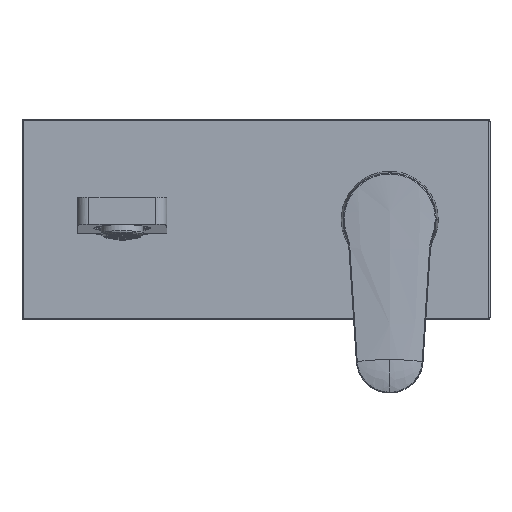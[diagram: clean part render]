
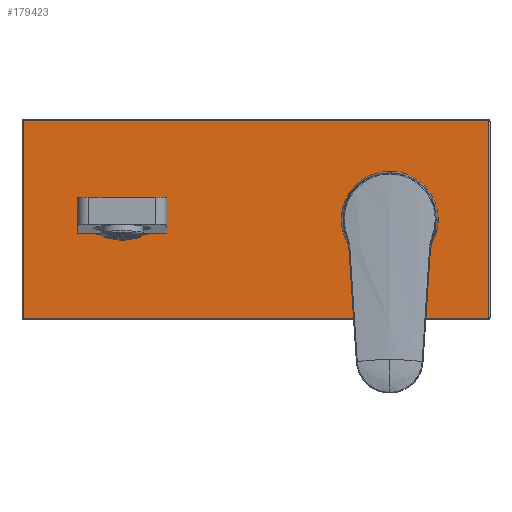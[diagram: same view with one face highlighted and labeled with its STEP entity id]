
A CAD part, top view. The second image highlights one B-rep face of the part: STEP entity #179423.
In plain terms, the highlighted planar face has unit normal (0, 0, 1).
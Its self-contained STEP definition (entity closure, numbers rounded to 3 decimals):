
#67364=CARTESIAN_POINT('',(98.5,-9.5,87.05));
#67365=DIRECTION('',(0.,0.,1.));
#67366=DIRECTION('',(0.,-1.,0.));
#67367=AXIS2_PLACEMENT_3D('',#67364,#67365,#67366);
#67369=DIRECTION('',(1.,0.,0.));
#67370=VECTOR('',#67369,208.);
#67371=CARTESIAN_POINT('',(-109.5,-10.,87.05));
#67372=LINE('',#67371,#67370);
#67373=CARTESIAN_POINT('',(-109.5,-9.5,87.05));
#67374=DIRECTION('',(0.,0.,1.));
#67375=DIRECTION('',(-1.,0.,0.));
#67376=AXIS2_PLACEMENT_3D('',#67373,#67374,#67375);
#67378=DIRECTION('',(0.,-1.,0.));
#67379=VECTOR('',#67378,88.);
#67380=CARTESIAN_POINT('',(-110.,78.5,87.05));
#67381=LINE('',#67380,#67379);
#67382=CARTESIAN_POINT('',(-109.5,78.5,87.05));
#67383=DIRECTION('',(0.,0.,1.));
#67384=DIRECTION('',(0.,1.,0.));
#67385=AXIS2_PLACEMENT_3D('',#67382,#67383,#67384);
#67387=DIRECTION('',(-1.,0.,0.));
#67388=VECTOR('',#67387,208.);
#67389=CARTESIAN_POINT('',(98.5,79.,87.05));
#67390=LINE('',#67389,#67388);
#67391=CARTESIAN_POINT('',(98.5,78.5,87.05));
#67392=DIRECTION('',(0.,0.,1.));
#67393=DIRECTION('',(1.,0.,0.));
#67394=AXIS2_PLACEMENT_3D('',#67391,#67392,#67393);
#67396=DIRECTION('',(0.,1.,0.));
#67397=VECTOR('',#67396,88.);
#67398=CARTESIAN_POINT('',(99.,-9.5,87.05));
#67399=LINE('',#67398,#67397);
#67400=CARTESIAN_POINT('',(54.5,34.5,87.05));
#67401=DIRECTION('',(0.,0.,-1.));
#67402=DIRECTION('',(-1.,0.,0.));
#67403=AXIS2_PLACEMENT_3D('',#67400,#67401,#67402);
#67405=CARTESIAN_POINT('',(54.5,34.5,87.05));
#67406=DIRECTION('',(0.,0.,-1.));
#67407=DIRECTION('',(1.,0.,0.));
#67408=AXIS2_PLACEMENT_3D('',#67405,#67406,#67407);
#67410=DIRECTION('',(1.,0.,0.));
#67411=VECTOR('',#67410,6.655);
#67412=CARTESIAN_POINT('',(-85.,28.,87.05));
#67413=LINE('',#67412,#67411);
#67414=CARTESIAN_POINT('',(-78.345,8.,87.05));
#67415=DIRECTION('',(0.,0.,-1.));
#67416=DIRECTION('',(0.,1.,0.));
#67417=AXIS2_PLACEMENT_3D('',#67414,#67415,#67416);
#67419=CARTESIAN_POINT('',(-65.5,34.,87.05));
#67420=DIRECTION('',(0.,0.,1.));
#67421=DIRECTION('',(-0.443,-0.897,0.));
#67422=AXIS2_PLACEMENT_3D('',#67419,#67420,#67421);
#67424=CARTESIAN_POINT('',(-52.655,8.,87.05));
#67425=DIRECTION('',(0.,0.,1.));
#67426=DIRECTION('',(0.,1.,0.));
#67427=AXIS2_PLACEMENT_3D('',#67424,#67425,#67426);
#67429=DIRECTION('',(1.,0.,0.));
#67430=VECTOR('',#67429,6.655);
#67431=CARTESIAN_POINT('',(-52.655,28.,87.05));
#67432=LINE('',#67431,#67430);
#67433=CARTESIAN_POINT('',(-46.,29.,87.05));
#67434=DIRECTION('',(0.,0.,-1.));
#67435=DIRECTION('',(0.5,-0.866,0.));
#67436=AXIS2_PLACEMENT_3D('',#67433,#67434,#67435);
#67438=DIRECTION('',(0.,1.,0.));
#67439=VECTOR('',#67438,15.866);
#67440=CARTESIAN_POINT('',(-45.5,28.134,87.05));
#67441=LINE('',#67440,#67439);
#67442=DIRECTION('',(1.,0.,0.));
#67443=VECTOR('',#67442,40.);
#67444=CARTESIAN_POINT('',(-85.5,44.,87.05));
#67445=LINE('',#67444,#67443);
#67446=DIRECTION('',(0.,1.,0.));
#67447=VECTOR('',#67446,15.866);
#67448=CARTESIAN_POINT('',(-85.5,28.134,87.05));
#67449=LINE('',#67448,#67447);
#67450=CARTESIAN_POINT('',(-85.,29.,87.05));
#67451=DIRECTION('',(0.,0.,-1.));
#67452=DIRECTION('',(0.,-1.,0.));
#67453=AXIS2_PLACEMENT_3D('',#67450,#67451,#67452);
#106211=CARTESIAN_POINT('',(98.5,-10.,87.05));
#106212=CARTESIAN_POINT('',(99.,-9.5,87.05));
#106213=VERTEX_POINT('',#106211);
#106214=VERTEX_POINT('',#106212);
#106219=CARTESIAN_POINT('',(99.,78.5,87.05));
#106220=VERTEX_POINT('',#106219);
#106223=CARTESIAN_POINT('',(98.5,79.,87.05));
#106224=VERTEX_POINT('',#106223);
#106227=CARTESIAN_POINT('',(-109.5,79.,87.05));
#106228=VERTEX_POINT('',#106227);
#106231=CARTESIAN_POINT('',(-110.,78.5,87.05));
#106232=VERTEX_POINT('',#106231);
#106235=CARTESIAN_POINT('',(-110.,-9.5,87.05));
#106236=VERTEX_POINT('',#106235);
#106239=CARTESIAN_POINT('',(-109.5,-10.,87.05));
#106240=VERTEX_POINT('',#106239);
#106287=CARTESIAN_POINT('',(33.55,34.5,87.05));
#106288=CARTESIAN_POINT('',(75.45,34.5,87.05));
#106289=VERTEX_POINT('',#106287);
#106290=VERTEX_POINT('',#106288);
#108756=CARTESIAN_POINT('',(-85.,28.,87.05));
#108757=CARTESIAN_POINT('',(-78.345,28.,87.05));
#108758=VERTEX_POINT('',#108756);
#108759=VERTEX_POINT('',#108757);
#108760=CARTESIAN_POINT('',(-52.655,28.,87.05));
#108761=CARTESIAN_POINT('',(-46.,28.,87.05));
#108762=VERTEX_POINT('',#108760);
#108763=VERTEX_POINT('',#108761);
#108764=CARTESIAN_POINT('',(-69.486,25.931,87.05));
#108765=CARTESIAN_POINT('',(-61.514,25.931,87.05));
#108766=VERTEX_POINT('',#108764);
#108767=VERTEX_POINT('',#108765);
#108768=CARTESIAN_POINT('',(-85.5,28.134,87.05));
#108769=VERTEX_POINT('',#108768);
#108770=CARTESIAN_POINT('',(-45.5,28.134,87.05));
#108771=VERTEX_POINT('',#108770);
#108772=CARTESIAN_POINT('',(-45.5,44.,87.05));
#108773=VERTEX_POINT('',#108772);
#108774=CARTESIAN_POINT('',(-85.5,44.,87.05));
#108775=VERTEX_POINT('',#108774);
#179374=CARTESIAN_POINT('',(-5.5,34.5,87.05));
#179375=DIRECTION('',(0.,0.,1.));
#179376=DIRECTION('',(1.,0.,0.));
#179377=AXIS2_PLACEMENT_3D('',#179374,#179375,#179376);
#179378=PLANE('',#179377);
#179380=ORIENTED_EDGE('',*,*,#179379,.F.);
#179382=ORIENTED_EDGE('',*,*,#179381,.F.);
#179384=ORIENTED_EDGE('',*,*,#179383,.F.);
#179386=ORIENTED_EDGE('',*,*,#179385,.F.);
#179388=ORIENTED_EDGE('',*,*,#179387,.F.);
#179390=ORIENTED_EDGE('',*,*,#179389,.F.);
#179392=ORIENTED_EDGE('',*,*,#179391,.F.);
#179394=ORIENTED_EDGE('',*,*,#179393,.F.);
#179395=EDGE_LOOP('',(#179380,#179382,#179384,#179386,#179388,#179390,#179392,
#179394));
#179396=FACE_OUTER_BOUND('',#179395,.F.);
#179398=ORIENTED_EDGE('',*,*,#179397,.F.);
#179400=ORIENTED_EDGE('',*,*,#179399,.F.);
#179401=EDGE_LOOP('',(#179398,#179400));
#179402=FACE_BOUND('',#179401,.F.);
#179404=ORIENTED_EDGE('',*,*,#179403,.T.);
#179406=ORIENTED_EDGE('',*,*,#179405,.T.);
#179407=ORIENTED_EDGE('',*,*,#179364,.T.);
#179408=ORIENTED_EDGE('',*,*,#179350,.F.);
#179410=ORIENTED_EDGE('',*,*,#179409,.T.);
#179412=ORIENTED_EDGE('',*,*,#179411,.F.);
#179414=ORIENTED_EDGE('',*,*,#179413,.T.);
#179416=ORIENTED_EDGE('',*,*,#179415,.F.);
#179418=ORIENTED_EDGE('',*,*,#179417,.F.);
#179420=ORIENTED_EDGE('',*,*,#179419,.F.);
#179421=EDGE_LOOP('',(#179404,#179406,#179407,#179408,#179410,#179412,#179414,
#179416,#179418,#179420));
#179422=FACE_BOUND('',#179421,.F.);
#179423=ADVANCED_FACE('',(#179396,#179402,#179422),#179378,.T.);
#67368=CIRCLE('',#67367,0.5);
#67377=CIRCLE('',#67376,0.5);
#67386=CIRCLE('',#67385,0.5);
#67395=CIRCLE('',#67394,0.5);
#67404=CIRCLE('',#67403,20.95);
#67409=CIRCLE('',#67408,20.95);
#67418=CIRCLE('',#67417,20.);
#67423=CIRCLE('',#67422,9.);
#67428=CIRCLE('',#67427,20.);
#67437=CIRCLE('',#67436,1.);
#67454=CIRCLE('',#67453,1.);
#179350=EDGE_CURVE('',#108762,#108767,#67428,.T.);
#179364=EDGE_CURVE('',#108766,#108767,#67423,.T.);
#179379=EDGE_CURVE('',#106213,#106214,#67368,.T.);
#179381=EDGE_CURVE('',#106240,#106213,#67372,.T.);
#179383=EDGE_CURVE('',#106236,#106240,#67377,.T.);
#179385=EDGE_CURVE('',#106232,#106236,#67381,.T.);
#179387=EDGE_CURVE('',#106228,#106232,#67386,.T.);
#179389=EDGE_CURVE('',#106224,#106228,#67390,.T.);
#179391=EDGE_CURVE('',#106220,#106224,#67395,.T.);
#179393=EDGE_CURVE('',#106214,#106220,#67399,.T.);
#179397=EDGE_CURVE('',#106289,#106290,#67404,.T.);
#179399=EDGE_CURVE('',#106290,#106289,#67409,.T.);
#179403=EDGE_CURVE('',#108758,#108759,#67413,.T.);
#179405=EDGE_CURVE('',#108759,#108766,#67418,.T.);
#179409=EDGE_CURVE('',#108762,#108763,#67432,.T.);
#179411=EDGE_CURVE('',#108771,#108763,#67437,.T.);
#179413=EDGE_CURVE('',#108771,#108773,#67441,.T.);
#179415=EDGE_CURVE('',#108775,#108773,#67445,.T.);
#179417=EDGE_CURVE('',#108769,#108775,#67449,.T.);
#179419=EDGE_CURVE('',#108758,#108769,#67454,.T.);
